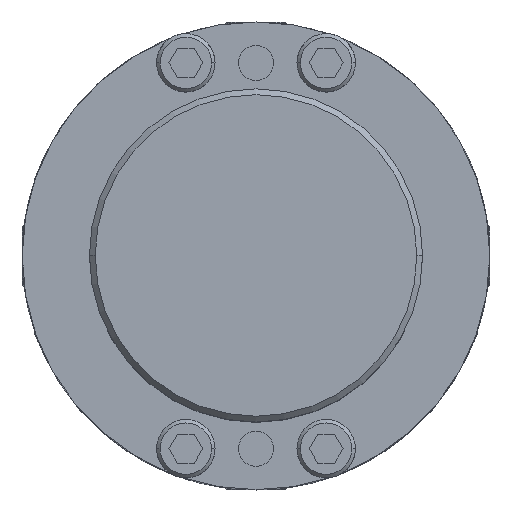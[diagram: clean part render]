
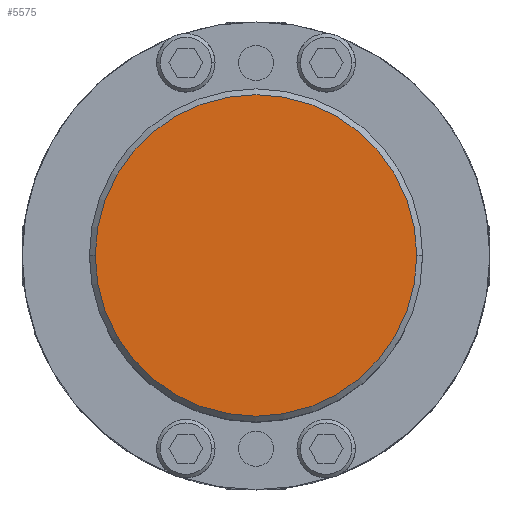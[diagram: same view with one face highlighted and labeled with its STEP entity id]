
A CAD part, top view. The second image highlights one B-rep face of the part: STEP entity #5575.
In plain terms, the highlighted planar face has unit normal (0, 0, 1).
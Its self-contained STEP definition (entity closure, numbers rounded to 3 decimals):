
#1635=CARTESIAN_POINT('',(27.5,0.,55.));
#1636=VERTEX_POINT('',#1635);
#1643=CARTESIAN_POINT('',(-27.5,0.,55.));
#1644=VERTEX_POINT('',#1643);
#1645=CARTESIAN_POINT('',(0.,0.,55.0));
#1646=DIRECTION('',(0.0,0.0,-1.0));
#1647=DIRECTION('',(1.0,0.0,0.0));
#1648=AXIS2_PLACEMENT_3D('',#1645,#1646,#1647);
#1649=CIRCLE('',#1648,27.5);
#1650=EDGE_CURVE('',#1636,#1644,#1649,.T.);
#5544=CARTESIAN_POINT('',(0.,0.,55.0));
#5545=DIRECTION('',(0.0,0.0,-1.0));
#5546=DIRECTION('',(1.0,0.0,0.0));
#5547=AXIS2_PLACEMENT_3D('',#5544,#5545,#5546);
#5548=CIRCLE('',#5547,27.5);
#5549=EDGE_CURVE('',#1644,#1636,#5548,.T.);
#5566=CARTESIAN_POINT('',(-2.591,0.,55.0));
#5567=DIRECTION('',(0.0,0.0,1.0));
#5568=DIRECTION('',(-1.0,0.0,0.0));
#5569=AXIS2_PLACEMENT_3D('',#5566,#5567,#5568);
#5570=PLANE('',#5569);
#5571=ORIENTED_EDGE('',*,*,#5549,.F.);
#5572=ORIENTED_EDGE('',*,*,#1650,.F.);
#5573=EDGE_LOOP('',(#5571,#5572));
#5574=FACE_OUTER_BOUND('',#5573,.T.);
#5575=ADVANCED_FACE('',(#5574),#5570,.T.);
